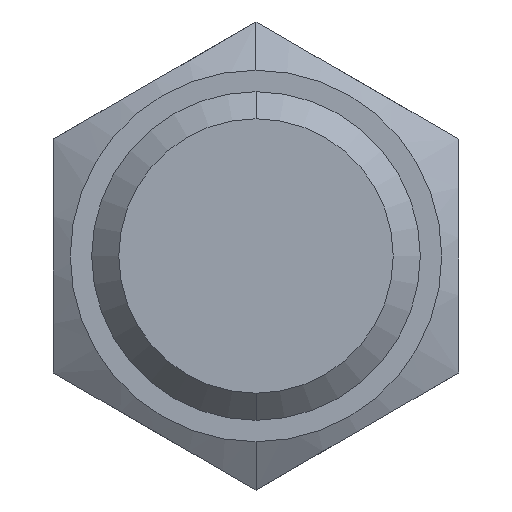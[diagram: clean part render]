
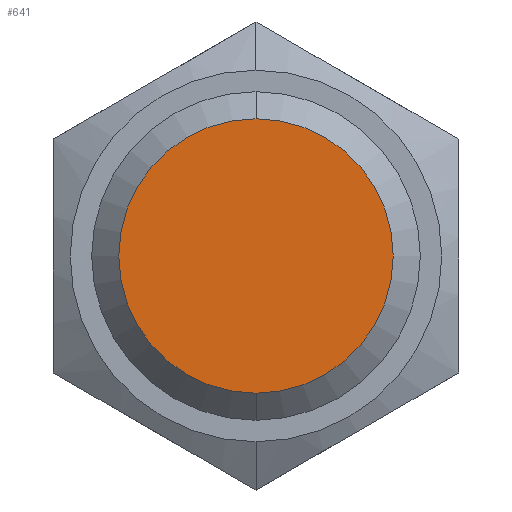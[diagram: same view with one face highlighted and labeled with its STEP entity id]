
A CAD part, front view. The second image highlights one B-rep face of the part: STEP entity #641.
In plain terms, the highlighted planar face has unit normal (0, -1, 0).
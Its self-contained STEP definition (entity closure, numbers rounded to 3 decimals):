
#86 = FACE_OUTER_BOUND ( 'NONE', #420, .T. ) ;
#87 = PLANE ( 'NONE',  #88 ) ;
#88 = AXIS2_PLACEMENT_3D ( 'NONE', #89, #90, #91 ) ;
#89 = CARTESIAN_POINT ( 'NONE',  ( 0., -37.5, 0. ) ) ;
#90 = DIRECTION ( 'NONE',  ( 0., -1., 0. ) ) ;
#91 = DIRECTION ( 'NONE',  ( 0., 0., -1. ) ) ;
#116 = CIRCLE ( 'NONE', #117, 4.064 ) ;
#117 = AXIS2_PLACEMENT_3D ( 'NONE', #121, #122, #123 ) ;
#121 = CARTESIAN_POINT ( 'NONE',  ( 0., -37.5, 0. ) ) ;
#122 = DIRECTION ( 'NONE',  ( 0., -1., 0. ) ) ;
#123 = DIRECTION ( 'NONE',  ( 0., 0., -1. ) ) ;
#347 = ORIENTED_EDGE ( 'NONE', *, *, #957, .T. ) ;
#364 = VERTEX_POINT ( 'NONE', #595 ) ;
#400 = VERTEX_POINT ( 'NONE', #761 ) ;
#420 = EDGE_LOOP ( 'NONE', ( #347, #928 ) ) ;
#438 = EDGE_CURVE ( 'NONE', #400, #364, #864, .T. ) ;
#595 = CARTESIAN_POINT ( 'NONE',  ( 0., -37.5, 4.064 ) ) ;
#641 = ADVANCED_FACE ( 'NONE', ( #86 ), #87, .T. ) ;
#761 = CARTESIAN_POINT ( 'NONE',  ( 0., -37.5, -4.064 ) ) ;
#864 = CIRCLE ( 'NONE', #865, 4.064 ) ;
#865 = AXIS2_PLACEMENT_3D ( 'NONE', #866, #867, #868 ) ;
#866 = CARTESIAN_POINT ( 'NONE',  ( 0., -37.5, 0. ) ) ;
#867 = DIRECTION ( 'NONE',  ( 0., -1., 0. ) ) ;
#868 = DIRECTION ( 'NONE',  ( 0., 0., -1. ) ) ;
#928 = ORIENTED_EDGE ( 'NONE', *, *, #438, .T. ) ;
#957 = EDGE_CURVE ( 'NONE', #364, #400, #116, .T. ) ;
